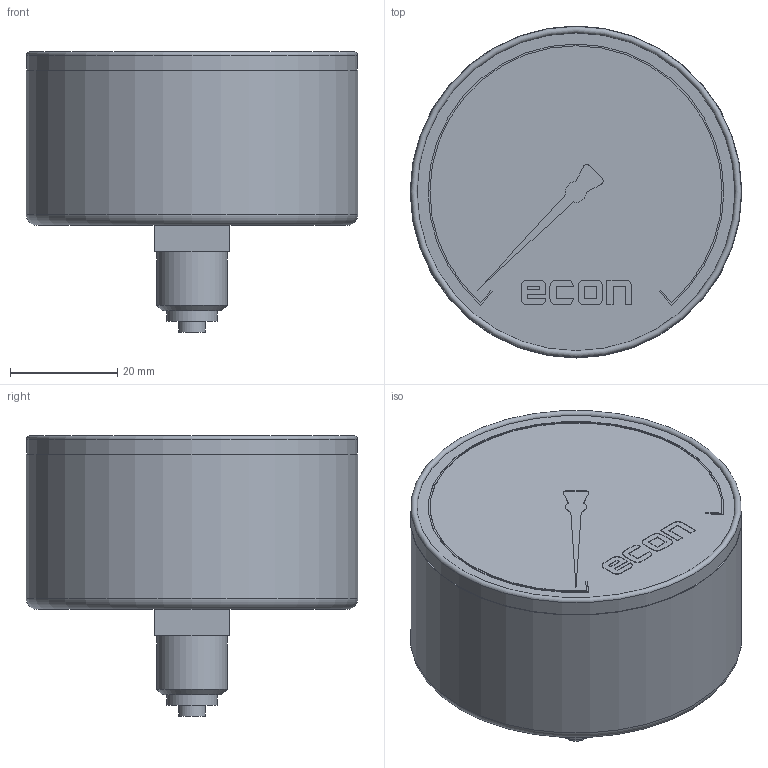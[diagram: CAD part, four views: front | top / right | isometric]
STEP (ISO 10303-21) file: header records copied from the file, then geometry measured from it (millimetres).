
FILE_DESCRIPTION(/* description */ ('Eriks item no: 10059716'),/* implementation_level */ '2;1');
FILE_NAME(/* name */ 'L:\DATA\ENG\Inventor\Econ 3D modellen\manometers & thermometers\1401A\1401A-R63 _ 0 - 10 bar.stp',/* time_stamp */ '2022-02-24T14:59:28+01:00',/* author */ ('roger.thijssen'),/* organization */ (''),/* preprocessor_version */ 'ST-DEVELOPER v18',/* originating_system */ 'Autodesk Inventor 2020',/* authorisation */ '');
FILE_SCHEMA (('AUTOMOTIVE_DESIGN { 1 0 10303 214 3 1 1 }'));
Length unit declared in the file: millimetre
Products named in the file (1): Pressure gauge, 1401A-R63 _ 0 - 10 bar
Bounding box: 62 x 62 x 52.4 mm (x, y, z)
Volume: 98546.9 mm3; surface area: 13037.1 mm2
Topology: 1 solids, 1 shells, 93 faces, 241 edges, 163 vertices
Faces by surface type: plane 66, cylinder 24, torus 2, cone 1
Full cylindrical faces by diameter (mm): 5 x1, 9.5 x1, 13.157 x1, 61.8 x1, 62 x1
Entity records: 2965 total; most frequent: CARTESIAN_POINT 498, DIRECTION 492, ORIENTED_EDGE 482, EDGE_CURVE 241, LINE 178, VECTOR 178, VERTEX_POINT 163, AXIS2_PLACEMENT_3D 157
